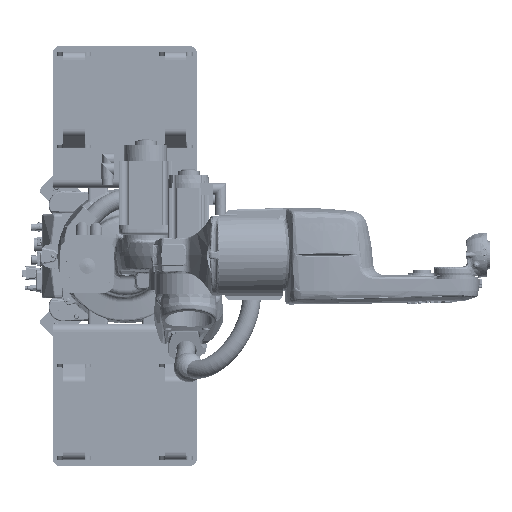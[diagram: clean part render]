
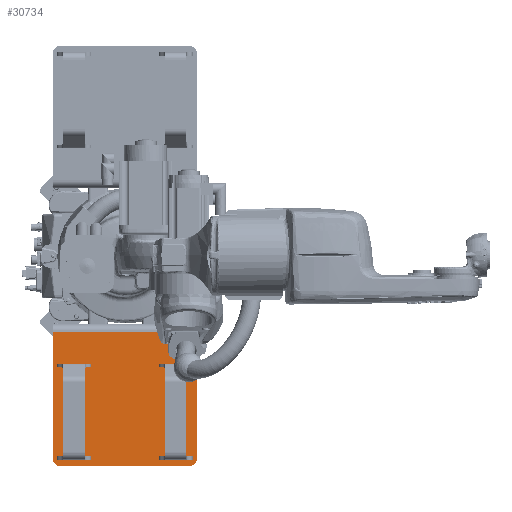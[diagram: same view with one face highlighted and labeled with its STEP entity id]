
A CAD part, top view. The second image highlights one B-rep face of the part: STEP entity #30734.
In plain terms, the highlighted planar face has unit normal (0, 0, 1).
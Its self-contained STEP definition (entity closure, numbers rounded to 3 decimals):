
#15223=FACE_BOUND('',#53034,.T.);
#15224=FACE_BOUND('',#53035,.T.);
#15225=FACE_BOUND('',#53036,.T.);
#15226=FACE_BOUND('',#53037,.T.);
#15227=FACE_BOUND('',#53038,.T.);
#30734=ADVANCED_FACE('',(#15223,#15224,#15225,#15226,#15227),#34787,.T.);
#34787=PLANE('',#172512);
#53034=EDGE_LOOP('',(#95937,#95938,#95939,#95940));
#53035=EDGE_LOOP('',(#95941,#95942,#95943,#95944));
#53036=EDGE_LOOP('',(#95945,#95946,#95947,#95948));
#53037=EDGE_LOOP('',(#95949,#95950,#95951,#95952,#95953,#95954));
#53038=EDGE_LOOP('',(#95955,#95956,#95957,#95958));
#95937=ORIENTED_EDGE('',*,*,#132947,.F.);
#95938=ORIENTED_EDGE('',*,*,#132948,.F.);
#95939=ORIENTED_EDGE('',*,*,#132949,.T.);
#95940=ORIENTED_EDGE('',*,*,#132950,.T.);
#95941=ORIENTED_EDGE('',*,*,#132951,.F.);
#95942=ORIENTED_EDGE('',*,*,#132952,.F.);
#95943=ORIENTED_EDGE('',*,*,#132953,.T.);
#95944=ORIENTED_EDGE('',*,*,#132954,.T.);
#95945=ORIENTED_EDGE('',*,*,#132955,.F.);
#95946=ORIENTED_EDGE('',*,*,#132956,.F.);
#95947=ORIENTED_EDGE('',*,*,#132957,.T.);
#95948=ORIENTED_EDGE('',*,*,#132958,.T.);
#95949=ORIENTED_EDGE('',*,*,#132959,.T.);
#95950=ORIENTED_EDGE('',*,*,#132960,.T.);
#95951=ORIENTED_EDGE('',*,*,#132961,.T.);
#95952=ORIENTED_EDGE('',*,*,#132962,.T.);
#95953=ORIENTED_EDGE('',*,*,#132963,.F.);
#95954=ORIENTED_EDGE('',*,*,#132964,.T.);
#95955=ORIENTED_EDGE('',*,*,#132965,.F.);
#95956=ORIENTED_EDGE('',*,*,#132966,.T.);
#95957=ORIENTED_EDGE('',*,*,#132967,.T.);
#95958=ORIENTED_EDGE('',*,*,#132968,.F.);
#111281=VERTEX_POINT('',#364862);
#111282=VERTEX_POINT('',#364863);
#111283=VERTEX_POINT('',#364865);
#111284=VERTEX_POINT('',#364867);
#111285=VERTEX_POINT('',#364870);
#111286=VERTEX_POINT('',#364871);
#111287=VERTEX_POINT('',#364873);
#111288=VERTEX_POINT('',#364875);
#111289=VERTEX_POINT('',#364878);
#111290=VERTEX_POINT('',#364879);
#111291=VERTEX_POINT('',#364881);
#111292=VERTEX_POINT('',#364883);
#111293=VERTEX_POINT('',#364886);
#111294=VERTEX_POINT('',#364887);
#111295=VERTEX_POINT('',#364889);
#111296=VERTEX_POINT('',#364891);
#111297=VERTEX_POINT('',#364893);
#111298=VERTEX_POINT('',#364895);
#111299=VERTEX_POINT('',#364898);
#111300=VERTEX_POINT('',#364899);
#111301=VERTEX_POINT('',#364901);
#111302=VERTEX_POINT('',#364903);
#132947=EDGE_CURVE('',#111281,#111282,#150004,.T.);
#132948=EDGE_CURVE('',#111283,#111281,#150005,.T.);
#132949=EDGE_CURVE('',#111283,#111284,#150006,.T.);
#132950=EDGE_CURVE('',#111284,#111282,#150007,.T.);
#132951=EDGE_CURVE('',#111285,#111286,#150008,.T.);
#132952=EDGE_CURVE('',#111287,#111285,#150009,.T.);
#132953=EDGE_CURVE('',#111287,#111288,#150010,.T.);
#132954=EDGE_CURVE('',#111288,#111286,#150011,.T.);
#132955=EDGE_CURVE('',#111289,#111290,#150012,.T.);
#132956=EDGE_CURVE('',#111291,#111289,#150013,.T.);
#132957=EDGE_CURVE('',#111291,#111292,#150014,.T.);
#132958=EDGE_CURVE('',#111292,#111290,#150015,.T.);
#132959=EDGE_CURVE('',#111293,#111294,#150016,.T.);
#132960=EDGE_CURVE('',#111294,#111295,#139002,.T.);
#132961=EDGE_CURVE('',#111295,#111296,#150017,.T.);
#132962=EDGE_CURVE('',#111296,#111297,#139003,.T.);
#132963=EDGE_CURVE('',#111298,#111297,#150018,.T.);
#132964=EDGE_CURVE('',#111298,#111293,#150019,.T.);
#132965=EDGE_CURVE('',#111299,#111300,#150020,.T.);
#132966=EDGE_CURVE('',#111299,#111301,#150021,.T.);
#132967=EDGE_CURVE('',#111301,#111302,#150022,.T.);
#132968=EDGE_CURVE('',#111300,#111302,#150023,.T.);
#139002=CIRCLE('',#172510,18.);
#139003=CIRCLE('',#172511,18.);
#150004=LINE('',#364861,#160212);
#150005=LINE('',#364864,#160213);
#150006=LINE('',#364866,#160214);
#150007=LINE('',#364868,#160215);
#150008=LINE('',#364869,#160216);
#150009=LINE('',#364872,#160217);
#150010=LINE('',#364874,#160218);
#150011=LINE('',#364876,#160219);
#150012=LINE('',#364877,#160220);
#150013=LINE('',#364880,#160221);
#150014=LINE('',#364882,#160222);
#150015=LINE('',#364884,#160223);
#150016=LINE('',#364885,#160224);
#150017=LINE('',#364890,#160225);
#150018=LINE('',#364894,#160226);
#150019=LINE('',#364896,#160227);
#150020=LINE('',#364897,#160228);
#150021=LINE('',#364900,#160229);
#150022=LINE('',#364902,#160230);
#150023=LINE('',#364904,#160231);
#160212=VECTOR('',#206322,1.);
#160213=VECTOR('',#206323,1.);
#160214=VECTOR('',#206324,1.);
#160215=VECTOR('',#206325,1.);
#160216=VECTOR('',#206326,1.);
#160217=VECTOR('',#206327,1.);
#160218=VECTOR('',#206328,1.);
#160219=VECTOR('',#206329,1.);
#160220=VECTOR('',#206330,1.);
#160221=VECTOR('',#206331,1.);
#160222=VECTOR('',#206332,1.);
#160223=VECTOR('',#206333,1.);
#160224=VECTOR('',#206334,1.);
#160225=VECTOR('',#206337,1.);
#160226=VECTOR('',#206340,1.);
#160227=VECTOR('',#206341,1.);
#160228=VECTOR('',#206342,1.);
#160229=VECTOR('',#206343,1.);
#160230=VECTOR('',#206344,1.);
#160231=VECTOR('',#206345,1.);
#172510=AXIS2_PLACEMENT_3D('',#364888,#206335,#206336);
#172511=AXIS2_PLACEMENT_3D('',#364892,#206338,#206339);
#172512=AXIS2_PLACEMENT_3D('',#364905,#206346,#206347);
#206322=DIRECTION('',(0.,1.,0.));
#206323=DIRECTION('',(1.,0.,0.));
#206324=DIRECTION('',(0.,1.,0.));
#206325=DIRECTION('',(1.,0.,0.));
#206326=DIRECTION('',(0.,1.,0.));
#206327=DIRECTION('',(1.,0.,0.));
#206328=DIRECTION('',(0.,1.,0.));
#206329=DIRECTION('',(1.,0.,0.));
#206330=DIRECTION('',(0.,1.,0.));
#206331=DIRECTION('',(1.,0.,0.));
#206332=DIRECTION('',(0.,1.,0.));
#206333=DIRECTION('',(1.,0.,0.));
#206334=DIRECTION('',(0.,-1.,0.));
#206335=DIRECTION('',(0.,0.,1.));
#206336=DIRECTION('',(0.,1.,0.));
#206337=DIRECTION('',(1.,0.,0.));
#206338=DIRECTION('',(0.,0.,1.));
#206339=DIRECTION('',(0.,1.,0.));
#206340=DIRECTION('',(0.,-1.,0.));
#206341=DIRECTION('',(-1.,0.,0.));
#206342=DIRECTION('',(1.,0.,0.));
#206343=DIRECTION('',(0.,1.,0.));
#206344=DIRECTION('',(1.,0.,0.));
#206345=DIRECTION('',(0.,1.,0.));
#206346=DIRECTION('',(0.,0.,1.));
#206347=DIRECTION('',(0.,1.,0.));
#364861=CARTESIAN_POINT('',(160.,-480.,304.5));
#364862=CARTESIAN_POINT('',(160.,-480.,304.5));
#364863=CARTESIAN_POINT('',(160.,-472.,304.5));
#364864=CARTESIAN_POINT('',(80.,-480.,304.5));
#364865=CARTESIAN_POINT('',(80.,-480.,304.5));
#364866=CARTESIAN_POINT('',(80.,-480.,304.5));
#364867=CARTESIAN_POINT('',(80.,-472.,304.5));
#364868=CARTESIAN_POINT('',(80.,-472.,304.5));
#364869=CARTESIAN_POINT('',(160.,-262.,304.5));
#364870=CARTESIAN_POINT('',(160.,-262.,304.5));
#364871=CARTESIAN_POINT('',(160.,-254.,304.5));
#364872=CARTESIAN_POINT('',(80.,-262.,304.5));
#364873=CARTESIAN_POINT('',(80.,-262.,304.5));
#364874=CARTESIAN_POINT('',(80.,-262.,304.5));
#364875=CARTESIAN_POINT('',(80.,-254.,304.5));
#364876=CARTESIAN_POINT('',(80.,-254.,304.5));
#364877=CARTESIAN_POINT('',(-80.,-480.,304.5));
#364878=CARTESIAN_POINT('',(-80.,-480.,304.5));
#364879=CARTESIAN_POINT('',(-80.,-472.,304.5));
#364880=CARTESIAN_POINT('',(-160.,-480.,304.5));
#364881=CARTESIAN_POINT('',(-160.,-480.,304.5));
#364882=CARTESIAN_POINT('',(-160.,-480.,304.5));
#364883=CARTESIAN_POINT('',(-160.,-472.,304.5));
#364884=CARTESIAN_POINT('',(-160.,-472.,304.5));
#364885=CARTESIAN_POINT('',(-170.,-160.,304.5));
#364886=CARTESIAN_POINT('',(-170.,-178.,304.5));
#364887=CARTESIAN_POINT('',(-170.,-477.,304.5));
#364888=CARTESIAN_POINT('',(-152.,-477.,304.5));
#364889=CARTESIAN_POINT('',(-152.,-495.,304.5));
#364890=CARTESIAN_POINT('',(-170.,-495.,304.5));
#364891=CARTESIAN_POINT('',(152.,-495.,304.5));
#364892=CARTESIAN_POINT('',(152.,-477.,304.5));
#364893=CARTESIAN_POINT('',(170.,-477.,304.5));
#364894=CARTESIAN_POINT('',(170.,-160.,304.5));
#364895=CARTESIAN_POINT('',(170.,-178.,304.5));
#364896=CARTESIAN_POINT('',(-170.,-178.,304.5));
#364897=CARTESIAN_POINT('',(-160.,-262.,304.5));
#364898=CARTESIAN_POINT('',(-160.,-262.,304.5));
#364899=CARTESIAN_POINT('',(-80.,-262.,304.5));
#364900=CARTESIAN_POINT('',(-160.,-262.,304.5));
#364901=CARTESIAN_POINT('',(-160.,-254.,304.5));
#364902=CARTESIAN_POINT('',(-160.,-254.,304.5));
#364903=CARTESIAN_POINT('',(-80.,-254.,304.5));
#364904=CARTESIAN_POINT('',(-80.,-262.,304.5));
#364905=CARTESIAN_POINT('',(-170.,-160.,304.5));
